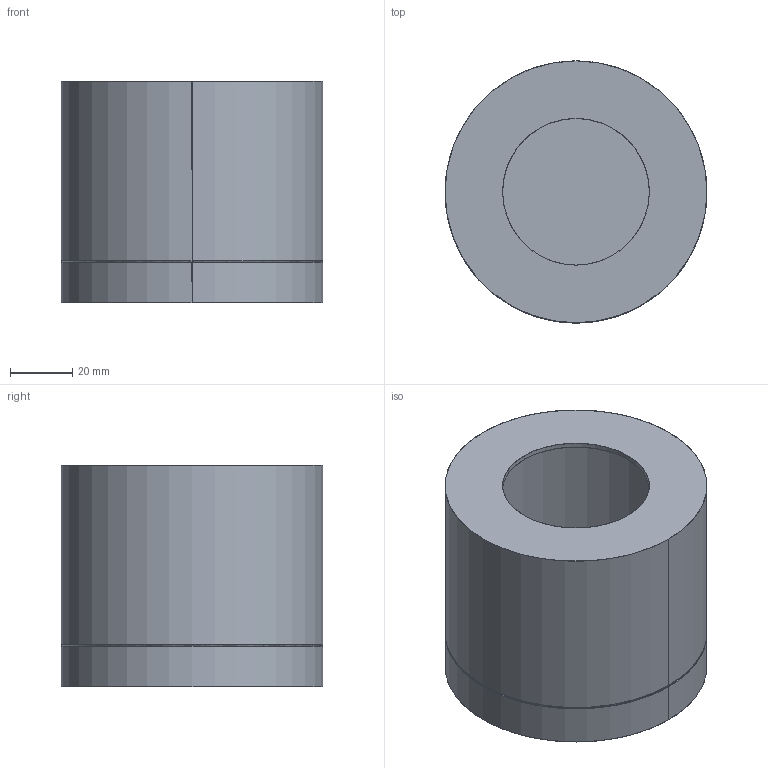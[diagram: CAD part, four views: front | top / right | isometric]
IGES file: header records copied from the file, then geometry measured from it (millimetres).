
Start section: SolidWorks IGES file using analytic representation for surfaces
Global section: file name: C:\Users\anna.bielnik\Desktop\modele 3D tymczasowe\SILBA\PM\Z³o¿enie_SILBA.IGS; native system: SolidWorks 2023; preprocessor: SolidWorks 2023; author: anna.bielnik; date: 230711.110521; units: millimetre
Bounding box: 84 x 84 x 71 mm (x, y, z)
Surface area: 59533.5 mm2 (no closed solid volume)
Topology: 0 solids, 0 shells, 29 faces, 1104 edges, 1104 vertices
Faces by surface type: revolution 18, bspline 11
